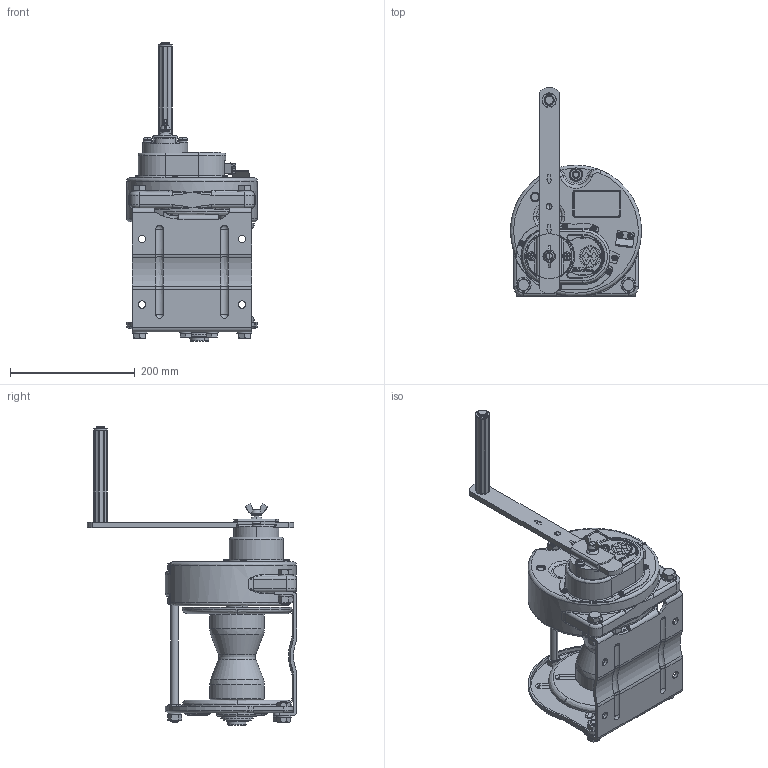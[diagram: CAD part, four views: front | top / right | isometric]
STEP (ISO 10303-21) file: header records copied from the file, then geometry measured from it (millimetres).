
FILE_DESCRIPTION( (''), '2;1');
FILE_NAME ('MC-5.stp','2023-12-25T11:49:32',(''),(''),'spGate 19.8.2 (****-****-****-****)','','');
FILE_SCHEMA (('AUTOMOTIVE_DESIGN'));
Length unit declared in the file: millimetre
Products named in the file (3): Assembly; MC-5-prt0; MC-5-prt1
Assembly tree (2 placements, depth 2):
  Assembly
    MC-5-prt0
    MC-5-prt1
Bounding box: 209.96 x 335.43 x 478.1 mm (x, y, z)
Volume: 4232161.6 mm3; surface area: 591483.9 mm2
Topology: 2 solids, 2 shells, 2401 faces, 6159 edges, 3853 vertices
Faces by surface type: plane 1167, cylinder 788, bspline 398, sphere 48
Entity records: 131138 total; most frequent: CARTESIAN_POINT 25261, ORIENTED_EDGE 12214, DIRECTION 11733, COLOUR_RGB 8510, PRESENTATION_STYLE_ASSIGNMENT 8510, STYLED_ITEM 8510, EDGE_CURVE 6107, DRAUGHTING_PRE_DEFINED_CURVE_FONT 6107
